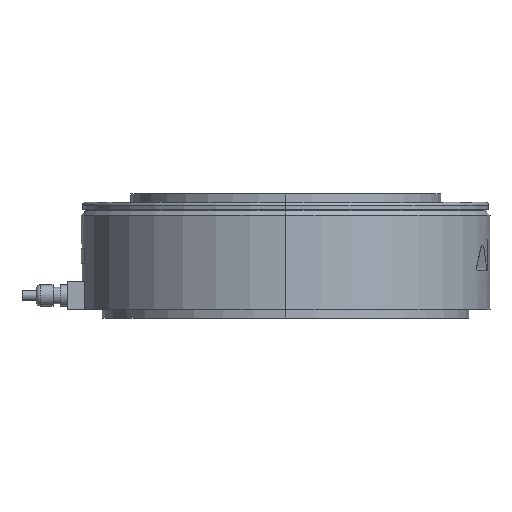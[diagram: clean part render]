
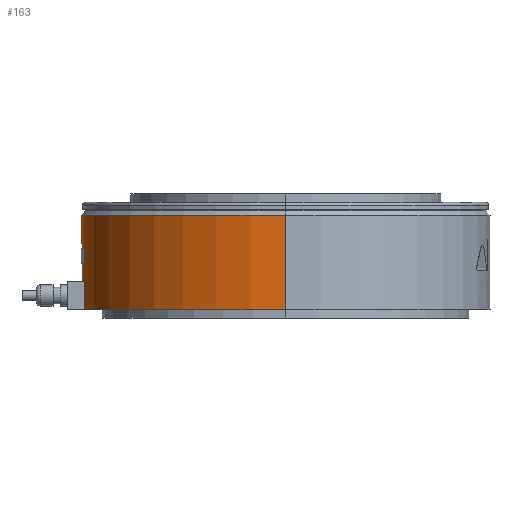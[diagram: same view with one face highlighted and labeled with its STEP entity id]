
A CAD part, left-side view. The second image highlights one B-rep face of the part: STEP entity #163.
In plain terms, the highlighted cylindrical face has radius 145 mm (diameter 290 mm), a partial arc.
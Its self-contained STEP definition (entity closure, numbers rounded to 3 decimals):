
#163 = ADVANCED_FACE ( 'NONE', ( #5664, #5672, #5674 ), #5668, .T. ) ;
#466 = CARTESIAN_POINT ( 'NONE',  ( 25., 142.829, 26. ) ) ;
#469 = CARTESIAN_POINT ( 'NONE',  ( -25., 142.829, 26. ) ) ;
#470 = CARTESIAN_POINT ( 'NONE',  ( -25., 142.829, 49.5 ) ) ;
#472 = CARTESIAN_POINT ( 'NONE',  ( 25., 142.829, 7. ) ) ;
#473 = CARTESIAN_POINT ( 'NONE',  ( -25., 142.829, 7. ) ) ;
#478 = CARTESIAN_POINT ( 'NONE',  ( -25., 142.829, 39. ) ) ;
#484 = CARTESIAN_POINT ( 'NONE',  ( 145., 0., 6. ) ) ;
#485 = CARTESIAN_POINT ( 'NONE',  ( 25., 142.829, 39. ) ) ;
#486 = CARTESIAN_POINT ( 'NONE',  ( 25., 142.829, 49.5 ) ) ;
#492 = CARTESIAN_POINT ( 'NONE',  ( -145., 0., 6. ) ) ;
#570 = CARTESIAN_POINT ( 'NONE',  ( -145., 0., 73. ) ) ;
#571 = CARTESIAN_POINT ( 'NONE',  ( 145., 0., 73. ) ) ;
#658 = AXIS2_PLACEMENT_3D ( 'NONE', #4058, #4059, #4060 ) ;
#676 = AXIS2_PLACEMENT_3D ( 'NONE', #4077, #4078, #4079 ) ;
#805 = CARTESIAN_POINT ( 'NONE',  ( 0., 0., 0. ) ) ;
#807 = DIRECTION ( 'NONE',  ( -1., 0., 0. ) ) ;
#808 = DIRECTION ( 'NONE',  ( 0., 0., -1. ) ) ;
#1111 = AXIS2_PLACEMENT_3D ( 'NONE', #805, #808, #807 ) ;
#1553 = EDGE_CURVE ( 'NONE', #3684, #3681, #3423, .T. ) ;
#1557 = EDGE_CURVE ( 'NONE', #3681, #3683, #3425, .T. ) ;
#1561 = EDGE_CURVE ( 'NONE', #3679, #3677, #3437, .T. ) ;
#1565 = EDGE_CURVE ( 'NONE', #3676, #3677, #3438, .T. ) ;
#1566 = EDGE_CURVE ( 'NONE', #3674, #3676, #3445, .T. ) ;
#1567 = EDGE_CURVE ( 'NONE', #3679, #3674, #3442, .T. ) ;
#1568 = EDGE_CURVE ( 'NONE', #3683, #3686, #3448, .T. ) ;
#1569 = EDGE_CURVE ( 'NONE', #3686, #3684, #3447, .T. ) ;
#1572 = EDGE_CURVE ( 'NONE', #3732, #3689, #3443, .T. ) ;
#1573 = EDGE_CURVE ( 'NONE', #3731, #3688, #3446, .T. ) ;
#1578 = EDGE_CURVE ( 'NONE', #3689, #3688, #3453, .T. ) ;
#1645 = EDGE_CURVE ( 'NONE', #3732, #3731, #3243, .T. ) ;
#2845 = EDGE_LOOP ( 'NONE', ( #6112, #6113, #6114, #6115 ) ) ;
#2852 = EDGE_LOOP ( 'NONE', ( #6120, #6121, #6122, #6123 ) ) ;
#3243 = CIRCLE ( 'NONE', #4159, 145. ) ;
#3423 = CIRCLE ( 'NONE', #658, 145. ) ;
#3425 = LINE ( 'NONE', #4066, #3428 ) ;
#3428 = VECTOR ( 'NONE', #4069, 1000. ) ;
#3435 = VECTOR ( 'NONE', #4094, 1000. ) ;
#3437 = CIRCLE ( 'NONE', #676, 145. ) ;
#3438 = LINE ( 'NONE', #4085, #3441 ) ;
#3441 = VECTOR ( 'NONE', #4088, 1000. ) ;
#3442 = LINE ( 'NONE', #4093, #3435 ) ;
#3443 = LINE ( 'NONE', #4097, #3449 ) ;
#3444 = VECTOR ( 'NONE', #4098, 1000. ) ;
#3445 = CIRCLE ( 'NONE', #4135, 145. ) ;
#3446 = LINE ( 'NONE', #4099, #3450 ) ;
#3447 = LINE ( 'NONE', #4090, #3444 ) ;
#3448 = CIRCLE ( 'NONE', #4138, 145. ) ;
#3449 = VECTOR ( 'NONE', #4100, 1000. ) ;
#3450 = VECTOR ( 'NONE', #4102, 1000. ) ;
#3453 = CIRCLE ( 'NONE', #4137, 145. ) ;
#3674 = VERTEX_POINT ( 'NONE', #466 ) ;
#3676 = VERTEX_POINT ( 'NONE', #469 ) ;
#3677 = VERTEX_POINT ( 'NONE', #473 ) ;
#3679 = VERTEX_POINT ( 'NONE', #472 ) ;
#3681 = VERTEX_POINT ( 'NONE', #478 ) ;
#3683 = VERTEX_POINT ( 'NONE', #470 ) ;
#3684 = VERTEX_POINT ( 'NONE', #485 ) ;
#3686 = VERTEX_POINT ( 'NONE', #486 ) ;
#3688 = VERTEX_POINT ( 'NONE', #484 ) ;
#3689 = VERTEX_POINT ( 'NONE', #492 ) ;
#3731 = VERTEX_POINT ( 'NONE', #571 ) ;
#3732 = VERTEX_POINT ( 'NONE', #570 ) ;
#4058 = CARTESIAN_POINT ( 'NONE',  ( 0., 0., 39. ) ) ;
#4059 = DIRECTION ( 'NONE',  ( 0., 0., 1. ) ) ;
#4060 = DIRECTION ( 'NONE',  ( -1., 0., 0. ) ) ;
#4066 = CARTESIAN_POINT ( 'NONE',  ( -25., 142.829, 0. ) ) ;
#4069 = DIRECTION ( 'NONE',  ( 0., 0., 1. ) ) ;
#4077 = CARTESIAN_POINT ( 'NONE',  ( 0., 0., 7. ) ) ;
#4078 = DIRECTION ( 'NONE',  ( 0., 0., 1. ) ) ;
#4079 = DIRECTION ( 'NONE',  ( -1., 0., 0. ) ) ;
#4085 = CARTESIAN_POINT ( 'NONE',  ( -25., 142.829, 0. ) ) ;
#4087 = CARTESIAN_POINT ( 'NONE',  ( 0., 0., 49.5 ) ) ;
#4088 = DIRECTION ( 'NONE',  ( 0., 0., -1. ) ) ;
#4089 = CARTESIAN_POINT ( 'NONE',  ( 0., 0., 26. ) ) ;
#4090 = CARTESIAN_POINT ( 'NONE',  ( 25., 142.829, 0. ) ) ;
#4091 = DIRECTION ( 'NONE',  ( 0., 0., 1. ) ) ;
#4092 = DIRECTION ( 'NONE',  ( -1., 0., 0. ) ) ;
#4093 = CARTESIAN_POINT ( 'NONE',  ( 25., 142.829, 0. ) ) ;
#4094 = DIRECTION ( 'NONE',  ( 0., 0., 1. ) ) ;
#4095 = DIRECTION ( 'NONE',  ( 0., 0., -1. ) ) ;
#4096 = DIRECTION ( 'NONE',  ( 1., 0., 0. ) ) ;
#4097 = CARTESIAN_POINT ( 'NONE',  ( -145., 0., 0. ) ) ;
#4098 = DIRECTION ( 'NONE',  ( 0., 0., -1. ) ) ;
#4099 = CARTESIAN_POINT ( 'NONE',  ( 145., 0., 0. ) ) ;
#4100 = DIRECTION ( 'NONE',  ( 0., 0., -1. ) ) ;
#4102 = DIRECTION ( 'NONE',  ( 0., 0., -1. ) ) ;
#4106 = CARTESIAN_POINT ( 'NONE',  ( 0., 0., 6. ) ) ;
#4107 = DIRECTION ( 'NONE',  ( 0., 0., -1. ) ) ;
#4108 = DIRECTION ( 'NONE',  ( -1., 0., 0. ) ) ;
#4135 = AXIS2_PLACEMENT_3D ( 'NONE', #4089, #4091, #4092 ) ;
#4137 = AXIS2_PLACEMENT_3D ( 'NONE', #4106, #4107, #4108 ) ;
#4138 = AXIS2_PLACEMENT_3D ( 'NONE', #4087, #4095, #4096 ) ;
#4159 = AXIS2_PLACEMENT_3D ( 'NONE', #5110, #5111, #5112 ) ;
#4965 = EDGE_LOOP ( 'NONE', ( #6116, #6117, #6118, #6119 ) ) ;
#5110 = CARTESIAN_POINT ( 'NONE',  ( 0., 0., 73. ) ) ;
#5111 = DIRECTION ( 'NONE',  ( 0., 0., -1. ) ) ;
#5112 = DIRECTION ( 'NONE',  ( -1., 0., 0. ) ) ;
#5664 = FACE_BOUND ( 'NONE', #2845, .T. ) ;
#5668 = CYLINDRICAL_SURFACE ( 'NONE', #1111, 145. ) ;
#5672 = FACE_BOUND ( 'NONE', #4965, .T. ) ;
#5674 = FACE_OUTER_BOUND ( 'NONE', #2852, .T. ) ;
#6112 = ORIENTED_EDGE ( 'NONE', *, *, #1566, .T. ) ;
#6113 = ORIENTED_EDGE ( 'NONE', *, *, #1565, .T. ) ;
#6114 = ORIENTED_EDGE ( 'NONE', *, *, #1561, .F. ) ;
#6115 = ORIENTED_EDGE ( 'NONE', *, *, #1567, .T. ) ;
#6116 = ORIENTED_EDGE ( 'NONE', *, *, #1557, .F. ) ;
#6117 = ORIENTED_EDGE ( 'NONE', *, *, #1553, .F. ) ;
#6118 = ORIENTED_EDGE ( 'NONE', *, *, #1569, .F. ) ;
#6119 = ORIENTED_EDGE ( 'NONE', *, *, #1568, .F. ) ;
#6120 = ORIENTED_EDGE ( 'NONE', *, *, #1645, .T. ) ;
#6121 = ORIENTED_EDGE ( 'NONE', *, *, #1573, .T. ) ;
#6122 = ORIENTED_EDGE ( 'NONE', *, *, #1578, .F. ) ;
#6123 = ORIENTED_EDGE ( 'NONE', *, *, #1572, .F. ) ;
